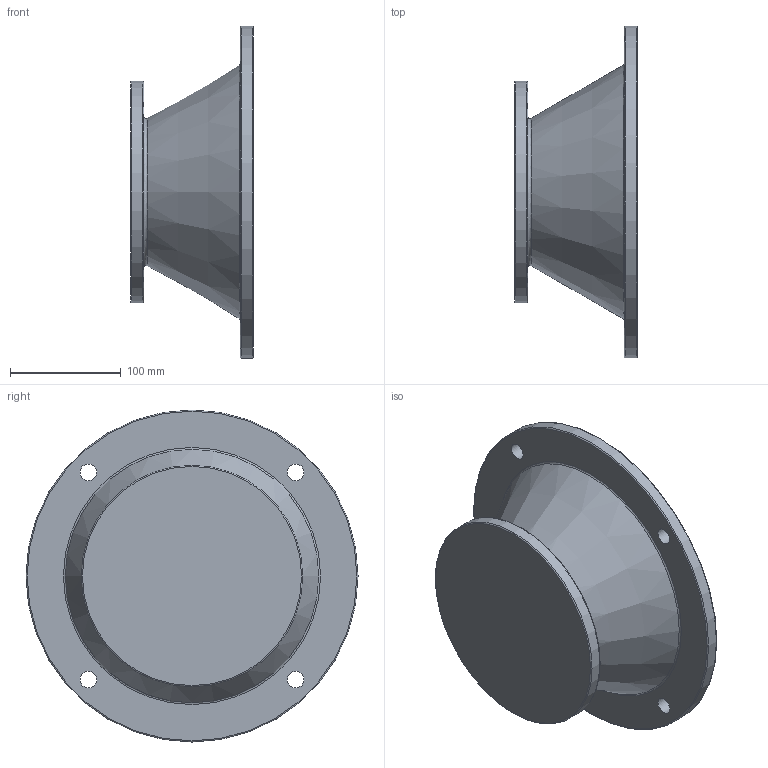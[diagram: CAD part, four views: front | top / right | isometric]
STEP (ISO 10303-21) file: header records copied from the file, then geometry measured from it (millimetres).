
FILE_DESCRIPTION((''),'2;1');
FILE_NAME('D:\PAWEŁ\ZLECENIA\2011 DualSystem\Przekładnie DR\DR70\STEP\132_B5_L111.stp','2012-06-11T12:11:44',('admin'),(''),'Autodesk Inventor 2009','Autodesk Inventor 2009','');
FILE_SCHEMA(('AUTOMOTIVE_DESIGN { 1 0 10303 214 1 1 1 1 }'));
Length unit declared in the file: millimetre
Products named in the file (1): 132_B5_L111
Bounding box: 111 x 300 x 300 mm (x, y, z)
Volume: 1282073.3 mm3; surface area: 280112.8 mm2
Topology: 1 solids, 1 shells, 29 faces, 56 edges, 35 vertices
Faces by surface type: plane 11, bspline 6, cylinder 5, torus 5, cone 2
Full cylindrical faces by diameter (mm): 62 x1, 200 x1, 230 x1, 300 x1
Entity records: 875 total; most frequent: CARTESIAN_POINT 278, DIRECTION 116, ORIENTED_EDGE 78, EDGE_LOOP 60, AXIS2_PLACEMENT_3D 53, EDGE_CURVE 39, VERTEX_POINT 35, FACE_BOUND 31
